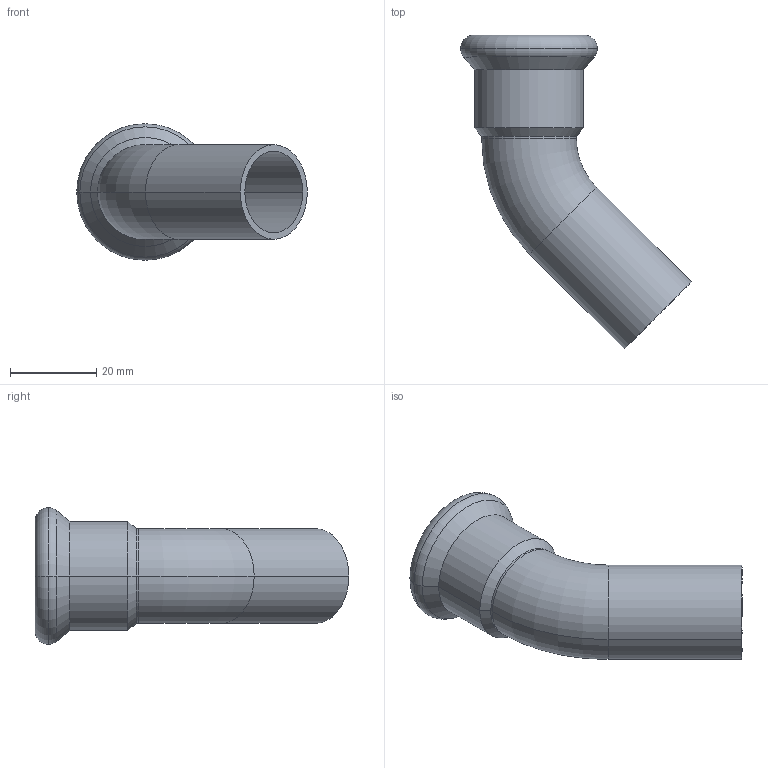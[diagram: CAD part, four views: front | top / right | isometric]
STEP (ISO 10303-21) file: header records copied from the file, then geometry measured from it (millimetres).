
FILE_DESCRIPTION(('CoCreate Modeling STEP Export'),'2;1');
FILE_NAME('C1412 22x22.stp','2014-11-11T16:41:25',(''),(''),'CoCreate Modeling STEP processor for AP214 (Solid Model)','CoCreate Modeling 17.00A 17-Jun-2010 (C) Parametric Technology GmbH','');
FILE_SCHEMA(('AUTOMOTIVE_DESIGN { 1 0 10303 214 1 1 1 1 }'));
Length unit declared in the file: millimetre
Products named in the file (2): C1412_22x22
Assembly tree (1 placements, depth 2):
  C1412_22x22
    C1412_22x22
Bounding box: 53.54 x 72.89 x 31.7 mm (x, y, z)
Volume: 9405.9 mm3; surface area: 11081.3 mm2
Topology: 1 solids, 1 shells, 30 faces, 62 edges, 36 vertices
Faces by surface type: cylinder 14, torus 8, plane 4, cone 4
Entity records: 696 total; most frequent: ORIENTED_EDGE 124, DIRECTION 108, CARTESIAN_POINT 99, EDGE_CURVE 62, AXIS2_PLACEMENT_3D 45, VERTEX_POINT 36, EDGE_LOOP 34, FACE_OUTER_BOUND 30
